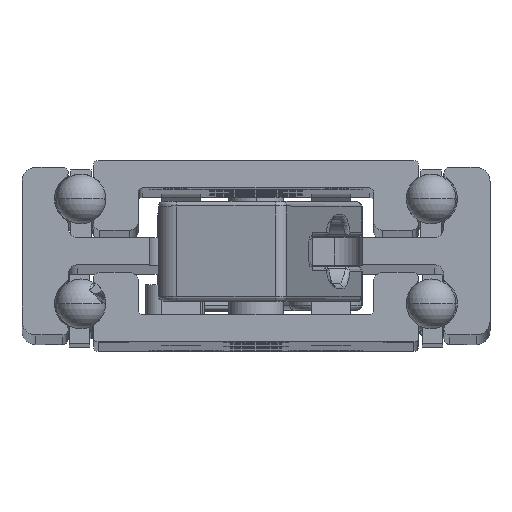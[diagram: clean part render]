
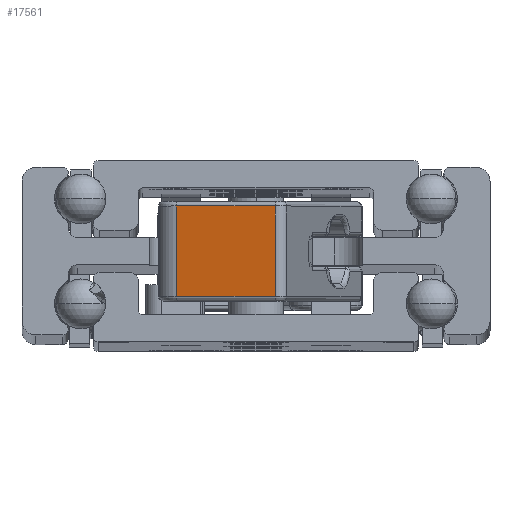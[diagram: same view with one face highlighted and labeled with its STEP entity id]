
A CAD part, top view. The second image highlights one B-rep face of the part: STEP entity #17561.
In plain terms, the highlighted planar face has unit normal (-0.225, 0, 0.974) as drawn and (-1, 0, 0) by its records, which use the part's own axes.
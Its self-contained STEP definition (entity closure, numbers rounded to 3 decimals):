
#384 = CARTESIAN_POINT ( 'NONE',  ( -37., 8., 5.4 ) ) ;
#567 = FACE_OUTER_BOUND ( 'NONE', #9176, .T. ) ;
#883 = DIRECTION ( 'NONE',  ( 0., 1., 0. ) ) ;
#1138 = CARTESIAN_POINT ( 'NONE',  ( -37., 8., -4.9 ) ) ;
#1853 = CARTESIAN_POINT ( 'NONE',  ( -37., -3., 5.4 ) ) ;
#2486 = CARTESIAN_POINT ( 'NONE',  ( -37., 8., 4.9 ) ) ;
#3282 = CARTESIAN_POINT ( 'NONE',  ( -37., -4., -4.9 ) ) ;
#3322 = EDGE_CURVE ( 'NONE', #14688, #31179, #17721, .T. ) ;
#3446 = LINE ( 'NONE', #1853, #21233 ) ;
#3669 = VECTOR ( 'NONE', #17884, 1000. ) ;
#3900 = CARTESIAN_POINT ( 'NONE',  ( -37., 8., 4.9 ) ) ;
#5485 = VECTOR ( 'NONE', #17355, 1000. ) ;
#6319 = VERTEX_POINT ( 'NONE', #30848 ) ;
#7240 = EDGE_CURVE ( 'NONE', #16309, #14688, #9905, .T. ) ;
#7849 = CARTESIAN_POINT ( 'NONE',  ( -37., -4., 5.4 ) ) ;
#9176 = EDGE_LOOP ( 'NONE', ( #11976, #17576, #16701, #29835 ) ) ;
#9905 = LINE ( 'NONE', #384, #5485 ) ;
#10248 = PLANE ( 'NONE',  #15233 ) ;
#10289 = EDGE_CURVE ( 'NONE', #31179, #6319, #3446, .T. ) ;
#11976 = ORIENTED_EDGE ( 'NONE', *, *, #7240, .T. ) ;
#12007 = LINE ( 'NONE', #2486, #18219 ) ;
#12165 = DIRECTION ( 'NONE',  ( 0., 1., 0. ) ) ;
#14688 = VERTEX_POINT ( 'NONE', #1138 ) ;
#15233 = AXIS2_PLACEMENT_3D ( 'NONE', #7849, #17538, #883 ) ;
#16309 = VERTEX_POINT ( 'NONE', #3900 ) ;
#16701 = ORIENTED_EDGE ( 'NONE', *, *, #10289, .T. ) ;
#17355 = DIRECTION ( 'NONE',  ( 0., 0., -1. ) ) ;
#17538 = DIRECTION ( 'NONE',  ( 1., 0., 0. ) ) ;
#17561 = ADVANCED_FACE ( 'NONE', ( #567 ), #10248, .F. ) ;
#17576 = ORIENTED_EDGE ( 'NONE', *, *, #3322, .T. ) ;
#17721 = LINE ( 'NONE', #3282, #3669 ) ;
#17884 = DIRECTION ( 'NONE',  ( 0., -1., 0. ) ) ;
#18219 = VECTOR ( 'NONE', #12165, 1000. ) ;
#18762 = EDGE_CURVE ( 'NONE', #6319, #16309, #12007, .T. ) ;
#21233 = VECTOR ( 'NONE', #31083, 1000. ) ;
#25548 = CARTESIAN_POINT ( 'NONE',  ( -37., -3., -4.9 ) ) ;
#29835 = ORIENTED_EDGE ( 'NONE', *, *, #18762, .T. ) ;
#30848 = CARTESIAN_POINT ( 'NONE',  ( -37., -3., 4.9 ) ) ;
#31083 = DIRECTION ( 'NONE',  ( 0., 0., 1. ) ) ;
#31179 = VERTEX_POINT ( 'NONE', #25548 ) ;
